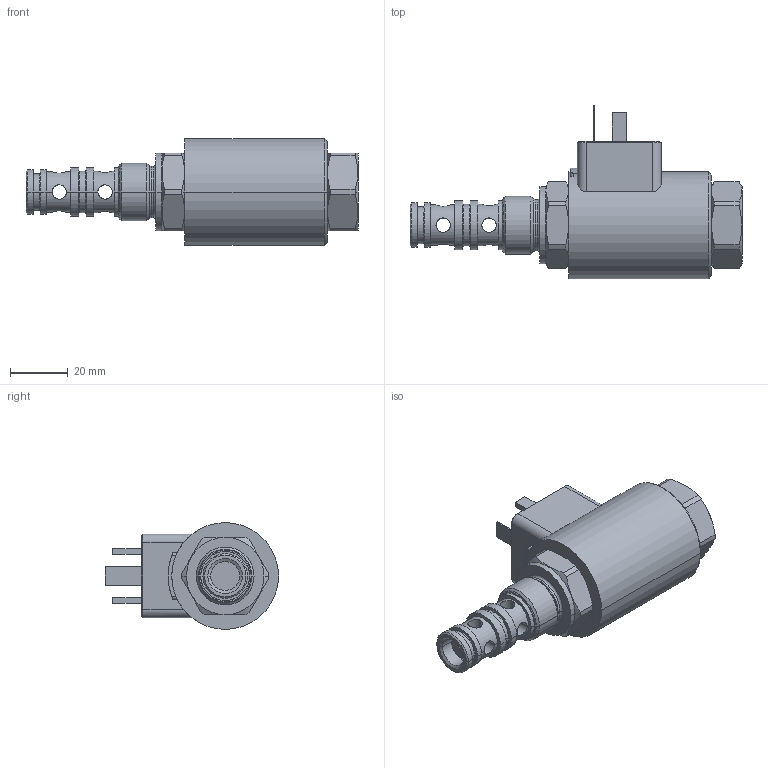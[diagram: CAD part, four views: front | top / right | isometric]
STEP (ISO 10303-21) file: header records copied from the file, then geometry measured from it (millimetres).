
FILE_DESCRIPTION((''),'2;1');
FILE_NAME('PVRM1_063_S20__313485_ASM','2024-02-19T',('l.soukupova'),(''),'PRO/ENGINEER BY PARAMETRIC TECHNOLOGY CORPORATION, 2015440','PRO/ENGINEER BY PARAMETRIC TECHNOLOGY CORPORATION, 2015440','');
FILE_SCHEMA(('AUTOMOTIVE_DESIGN { 1 0 10303 214 1 1 1 1 }'));
Length unit declared in the file: millimetre
Products named in the file (3): PVRM1_063_WOUTC; C19B_E1; PVRM1_063_S20__313485_ASM
Assembly tree (2 placements, depth 2):
  PVRM1_063_S20__313485_ASM
    PVRM1_063_WOUTC
    C19B_E1
Bounding box: 115 x 60 x 37 mm (x, y, z)
Volume: 83956.7 mm3; surface area: 23099.4 mm2
Topology: 2 solids, 4 shells, 185 faces, 455 edges, 297 vertices
Faces by surface type: cylinder 77, plane 68, cone 26, torus 14
Entity records: 9926 total; most frequent: CARTESIAN_POINT 2629, DIRECTION 975, ORIENTED_EDGE 874, PRESENTATION_STYLE_ASSIGNMENT 583, STYLED_ITEM 499, CURVE_STYLE 457, EDGE_CURVE 441, AXIS2_PLACEMENT_3D 379
